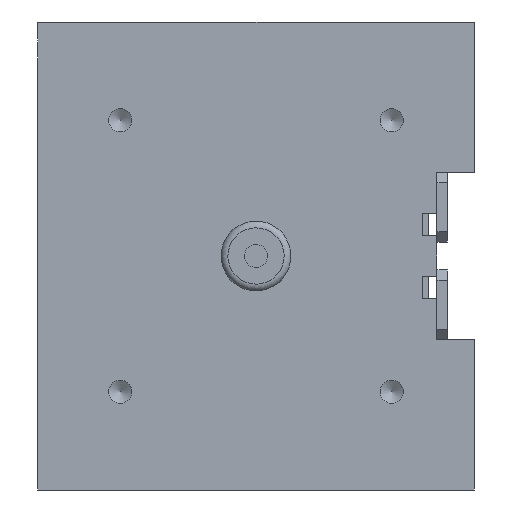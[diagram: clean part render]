
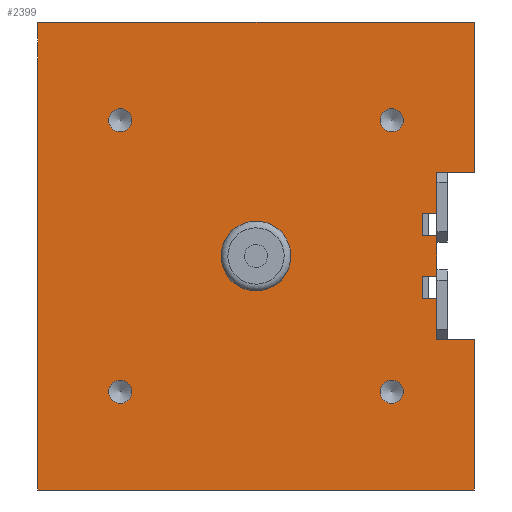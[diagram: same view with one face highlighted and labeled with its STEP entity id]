
A CAD part, front view. The second image highlights one B-rep face of the part: STEP entity #2399.
In plain terms, the highlighted planar face has unit normal (0, -1, 0).
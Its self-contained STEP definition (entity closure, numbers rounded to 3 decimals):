
#2193=CARTESIAN_POINT('',(-9.997,0.,-0.232));
#2194=VERTEX_POINT('',#2193);
#2195=CARTESIAN_POINT('',(0.,0.,0.));
#2196=DIRECTION('',(0.0,1.0,0.0));
#2197=DIRECTION('',(0.0,0.0,-1.0));
#2198=AXIS2_PLACEMENT_3D('',#2195,#2196,#2197);
#2199=CIRCLE('',#2198,10.);
#2200=EDGE_CURVE('',#2194,#2194,#2199,.T.);
#2217=CARTESIAN_POINT('',(2.68,0.,0.));
#2218=DIRECTION('',(0.0,1.0,0.0));
#2219=DIRECTION('',(0.0,0.0,1.0));
#2220=AXIS2_PLACEMENT_3D('',#2217,#2218,#2219);
#2221=PLANE('',#2220);
#2222=CARTESIAN_POINT('',(62.5,0.,-67.0));
#2223=VERTEX_POINT('',#2222);
#2224=CARTESIAN_POINT('',(-62.5,0.,-67.0));
#2225=VERTEX_POINT('',#2224);
#2226=CARTESIAN_POINT('',(62.5,0.,-67.0));
#2227=DIRECTION('',(-1.0,0.0,0.0));
#2228=VECTOR('',#2227,125.0);
#2229=LINE('',#2226,#2228);
#2230=EDGE_CURVE('',#2223,#2225,#2229,.T.);
#2231=ORIENTED_EDGE('',*,*,#2230,.F.);
#2232=CARTESIAN_POINT('',(62.5,0.,-24.));
#2233=VERTEX_POINT('',#2232);
#2234=CARTESIAN_POINT('',(62.5,0.,-24.));
#2235=DIRECTION('',(0.0,0.0,-1.0));
#2236=VECTOR('',#2235,43.);
#2237=LINE('',#2234,#2236);
#2238=EDGE_CURVE('',#2233,#2223,#2237,.T.);
#2239=ORIENTED_EDGE('',*,*,#2238,.F.);
#2240=CARTESIAN_POINT('',(51.8,0.,-24.));
#2241=VERTEX_POINT('',#2240);
#2242=CARTESIAN_POINT('',(51.8,0.,-24.));
#2243=DIRECTION('',(1.0,0.0,0.0));
#2244=VECTOR('',#2243,10.7);
#2245=LINE('',#2242,#2244);
#2246=EDGE_CURVE('',#2241,#2233,#2245,.T.);
#2247=ORIENTED_EDGE('',*,*,#2246,.F.);
#2248=CARTESIAN_POINT('',(51.8,0.,-12.2));
#2249=VERTEX_POINT('',#2248);
#2250=CARTESIAN_POINT('',(51.8,0.,-12.2));
#2251=DIRECTION('',(0.0,0.0,-1.0));
#2252=VECTOR('',#2251,11.8);
#2253=LINE('',#2250,#2252);
#2254=EDGE_CURVE('',#2249,#2241,#2253,.T.);
#2255=ORIENTED_EDGE('',*,*,#2254,.F.);
#2256=CARTESIAN_POINT('',(47.6,0.,-12.2));
#2257=VERTEX_POINT('',#2256);
#2258=CARTESIAN_POINT('',(47.6,0.,-12.2));
#2259=DIRECTION('',(1.0,0.0,0.0));
#2260=VECTOR('',#2259,4.2);
#2261=LINE('',#2258,#2260);
#2262=EDGE_CURVE('',#2257,#2249,#2261,.T.);
#2263=ORIENTED_EDGE('',*,*,#2262,.F.);
#2264=CARTESIAN_POINT('',(47.6,0.,-5.8));
#2265=VERTEX_POINT('',#2264);
#2266=CARTESIAN_POINT('',(47.6,0.,-5.8));
#2267=DIRECTION('',(0.0,0.0,-1.0));
#2268=VECTOR('',#2267,6.4);
#2269=LINE('',#2266,#2268);
#2270=EDGE_CURVE('',#2265,#2257,#2269,.T.);
#2271=ORIENTED_EDGE('',*,*,#2270,.F.);
#2272=CARTESIAN_POINT('',(51.8,0.,-5.8));
#2273=VERTEX_POINT('',#2272);
#2274=CARTESIAN_POINT('',(51.8,0.,-5.8));
#2275=DIRECTION('',(-1.0,0.0,0.0));
#2276=VECTOR('',#2275,4.2);
#2277=LINE('',#2274,#2276);
#2278=EDGE_CURVE('',#2273,#2265,#2277,.T.);
#2279=ORIENTED_EDGE('',*,*,#2278,.F.);
#2280=CARTESIAN_POINT('',(51.8,0.,5.8));
#2281=VERTEX_POINT('',#2280);
#2282=CARTESIAN_POINT('',(51.8,0.,5.8));
#2283=DIRECTION('',(0.0,0.0,-1.0));
#2284=VECTOR('',#2283,11.6);
#2285=LINE('',#2282,#2284);
#2286=EDGE_CURVE('',#2281,#2273,#2285,.T.);
#2287=ORIENTED_EDGE('',*,*,#2286,.F.);
#2288=CARTESIAN_POINT('',(47.6,0.,5.8));
#2289=VERTEX_POINT('',#2288);
#2290=CARTESIAN_POINT('',(47.6,0.,5.8));
#2291=DIRECTION('',(1.0,0.0,0.0));
#2292=VECTOR('',#2291,4.2);
#2293=LINE('',#2290,#2292);
#2294=EDGE_CURVE('',#2289,#2281,#2293,.T.);
#2295=ORIENTED_EDGE('',*,*,#2294,.F.);
#2296=CARTESIAN_POINT('',(47.6,0.,12.2));
#2297=VERTEX_POINT('',#2296);
#2298=CARTESIAN_POINT('',(47.6,0.,12.2));
#2299=DIRECTION('',(0.0,0.0,-1.0));
#2300=VECTOR('',#2299,6.4);
#2301=LINE('',#2298,#2300);
#2302=EDGE_CURVE('',#2297,#2289,#2301,.T.);
#2303=ORIENTED_EDGE('',*,*,#2302,.F.);
#2304=CARTESIAN_POINT('',(51.8,0.,12.2));
#2305=VERTEX_POINT('',#2304);
#2306=CARTESIAN_POINT('',(51.8,0.,12.2));
#2307=DIRECTION('',(-1.0,0.0,0.0));
#2308=VECTOR('',#2307,4.2);
#2309=LINE('',#2306,#2308);
#2310=EDGE_CURVE('',#2305,#2297,#2309,.T.);
#2311=ORIENTED_EDGE('',*,*,#2310,.F.);
#2312=CARTESIAN_POINT('',(51.8,0.,24.));
#2313=VERTEX_POINT('',#2312);
#2314=CARTESIAN_POINT('',(51.8,0.,24.));
#2315=DIRECTION('',(0.0,0.0,-1.0));
#2316=VECTOR('',#2315,11.8);
#2317=LINE('',#2314,#2316);
#2318=EDGE_CURVE('',#2313,#2305,#2317,.T.);
#2319=ORIENTED_EDGE('',*,*,#2318,.F.);
#2320=CARTESIAN_POINT('',(62.5,0.,24.));
#2321=VERTEX_POINT('',#2320);
#2322=CARTESIAN_POINT('',(62.5,0.,24.));
#2323=DIRECTION('',(-1.0,0.0,0.0));
#2324=VECTOR('',#2323,10.7);
#2325=LINE('',#2322,#2324);
#2326=EDGE_CURVE('',#2321,#2313,#2325,.T.);
#2327=ORIENTED_EDGE('',*,*,#2326,.F.);
#2328=CARTESIAN_POINT('',(62.5,0.,67.0));
#2329=VERTEX_POINT('',#2328);
#2330=CARTESIAN_POINT('',(62.5,0.,67.0));
#2331=DIRECTION('',(0.0,0.0,-1.0));
#2332=VECTOR('',#2331,43.);
#2333=LINE('',#2330,#2332);
#2334=EDGE_CURVE('',#2329,#2321,#2333,.T.);
#2335=ORIENTED_EDGE('',*,*,#2334,.F.);
#2336=CARTESIAN_POINT('',(-62.5,0.,67.0));
#2337=VERTEX_POINT('',#2336);
#2338=CARTESIAN_POINT('',(-62.5,0.,67.0));
#2339=DIRECTION('',(1.0,0.0,0.0));
#2340=VECTOR('',#2339,125.0);
#2341=LINE('',#2338,#2340);
#2342=EDGE_CURVE('',#2337,#2329,#2341,.T.);
#2343=ORIENTED_EDGE('',*,*,#2342,.F.);
#2344=CARTESIAN_POINT('',(-62.5,0.,-67.0));
#2345=DIRECTION('',(0.0,0.0,1.0));
#2346=VECTOR('',#2345,134.0);
#2347=LINE('',#2344,#2346);
#2348=EDGE_CURVE('',#2225,#2337,#2347,.T.);
#2349=ORIENTED_EDGE('',*,*,#2348,.F.);
#2350=EDGE_LOOP('',(#2231,#2239,#2247,#2255,#2263,#2271,#2279,#2287,#2295,#2303,#2311,#2319,#2327,#2335,#2343,#2349));
#2351=FACE_OUTER_BOUND('',#2350,.T.);
#2352=CARTESIAN_POINT('',(38.891,0.,-42.214));
#2353=VERTEX_POINT('',#2352);
#2354=CARTESIAN_POINT('',(38.891,0.,-38.891));
#2355=DIRECTION('',(0.0,1.0,0.0));
#2356=DIRECTION('',(0.0,0.0,-1.0));
#2357=AXIS2_PLACEMENT_3D('',#2354,#2355,#2356);
#2358=CIRCLE('',#2357,3.324);
#2359=EDGE_CURVE('',#2353,#2353,#2358,.T.);
#2360=ORIENTED_EDGE('',*,*,#2359,.T.);
#2361=EDGE_LOOP('',(#2360));
#2362=FACE_BOUND('',#2361,.T.);
#2363=CARTESIAN_POINT('',(38.891,0.,35.567));
#2364=VERTEX_POINT('',#2363);
#2365=CARTESIAN_POINT('',(38.891,0.,38.891));
#2366=DIRECTION('',(0.0,1.0,0.0));
#2367=DIRECTION('',(0.0,0.0,-1.0));
#2368=AXIS2_PLACEMENT_3D('',#2365,#2366,#2367);
#2369=CIRCLE('',#2368,3.324);
#2370=EDGE_CURVE('',#2364,#2364,#2369,.T.);
#2371=ORIENTED_EDGE('',*,*,#2370,.T.);
#2372=EDGE_LOOP('',(#2371));
#2373=FACE_BOUND('',#2372,.T.);
#2374=CARTESIAN_POINT('',(-38.891,0.,35.567));
#2375=VERTEX_POINT('',#2374);
#2376=CARTESIAN_POINT('',(-38.891,0.,38.891));
#2377=DIRECTION('',(0.0,1.0,0.0));
#2378=DIRECTION('',(0.0,0.0,-1.0));
#2379=AXIS2_PLACEMENT_3D('',#2376,#2377,#2378);
#2380=CIRCLE('',#2379,3.324);
#2381=EDGE_CURVE('',#2375,#2375,#2380,.T.);
#2382=ORIENTED_EDGE('',*,*,#2381,.T.);
#2383=EDGE_LOOP('',(#2382));
#2384=FACE_BOUND('',#2383,.T.);
#2385=CARTESIAN_POINT('',(-38.891,0.,-42.214));
#2386=VERTEX_POINT('',#2385);
#2387=CARTESIAN_POINT('',(-38.891,0.,-38.891));
#2388=DIRECTION('',(0.0,1.0,0.0));
#2389=DIRECTION('',(0.0,0.0,-1.0));
#2390=AXIS2_PLACEMENT_3D('',#2387,#2388,#2389);
#2391=CIRCLE('',#2390,3.324);
#2392=EDGE_CURVE('',#2386,#2386,#2391,.T.);
#2393=ORIENTED_EDGE('',*,*,#2392,.T.);
#2394=EDGE_LOOP('',(#2393));
#2395=FACE_BOUND('',#2394,.T.);
#2396=ORIENTED_EDGE('',*,*,#2200,.T.);
#2397=EDGE_LOOP('',(#2396));
#2398=FACE_BOUND('',#2397,.T.);
#2399=ADVANCED_FACE('',(#2351,#2362,#2373,#2384,#2395,#2398),#2221,.F.);
